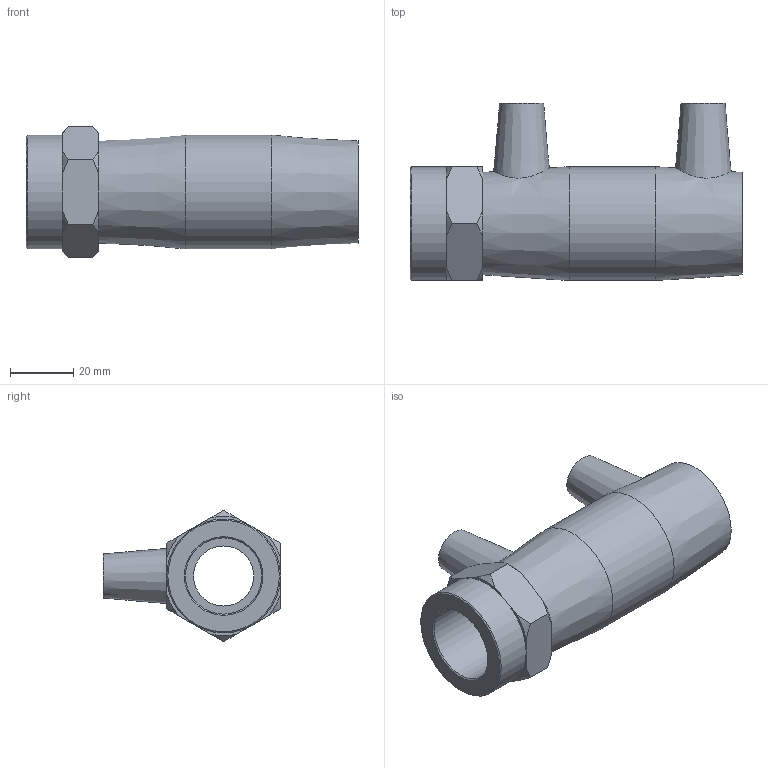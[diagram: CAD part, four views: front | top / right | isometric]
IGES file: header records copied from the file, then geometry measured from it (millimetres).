
Global section: file name: 493104025007.ipt; native system: Autodesk Inventor 2015; preprocessor: unknown; author: KIM; date: 20200202.122435; units: millimetre
Bounding box: 105 x 56 x 41.57 mm (x, y, z)
Volume: 67417.1 mm3; surface area: 23918.2 mm2
Topology: 1 solids, 1 shells, 54 faces, 130 edges, 86 vertices
Faces by surface type: plane 24, cone 17, revolution 9, cylinder 4
Full cylindrical faces by diameter (mm): 4 x2, 36 x2
